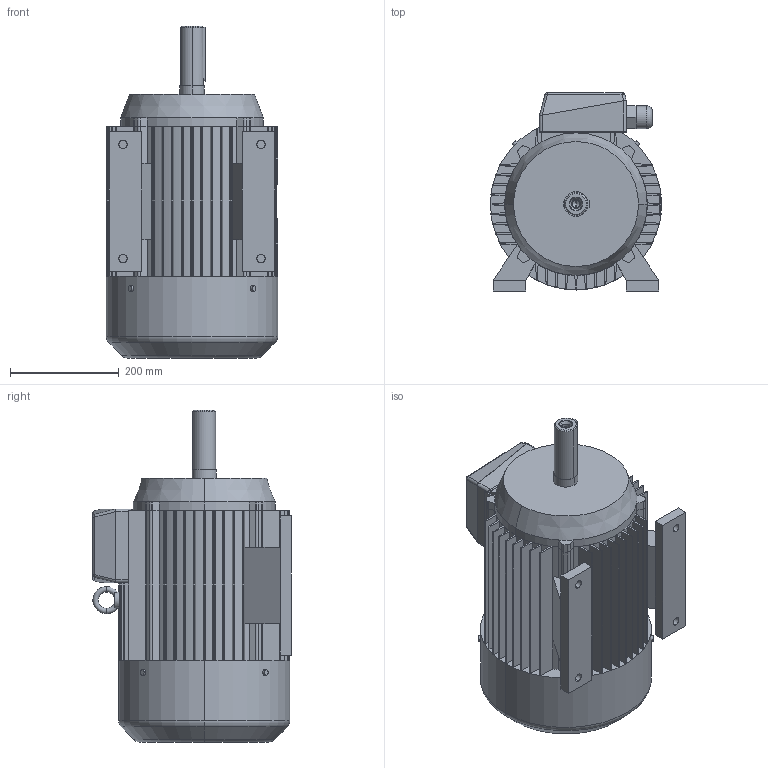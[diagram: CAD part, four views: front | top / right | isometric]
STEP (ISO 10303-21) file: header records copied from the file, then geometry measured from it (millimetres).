
FILE_DESCRIPTION (( 'STEP AP203' ), '1' );
FILE_NAME ('2SIE160M2A,2B,4,6.STEP', '2012-10-29T08:14:54', ( 'INDUKTA' ), ( 'CANTONI MOTOR' ), 'SwSTEP 2.0', 'SolidWorks 2003064', '' );
FILE_SCHEMA (( 'CONFIG_CONTROL_DESIGN' ));
Length unit declared in the file: millimetre
Products named in the file (1): 2SIE160M2A,2B,4,6
Bounding box: 315 x 365 x 611 mm (x, y, z)
Volume: 33434104.2 mm3; surface area: 1610556.7 mm2
Topology: 15 solids, 15 shells, 410 faces, 1071 edges, 685 vertices
Faces by surface type: plane 199, cylinder 177, torus 16, cone 14, sphere 4
Entity records: 12872 total; most frequent: CARTESIAN_POINT 2468, DIRECTION 2252, ORIENTED_EDGE 2130, EDGE_CURVE 1065, AXIS2_PLACEMENT_3D 801, VERTEX_POINT 685, LINE 650, VECTOR 650
